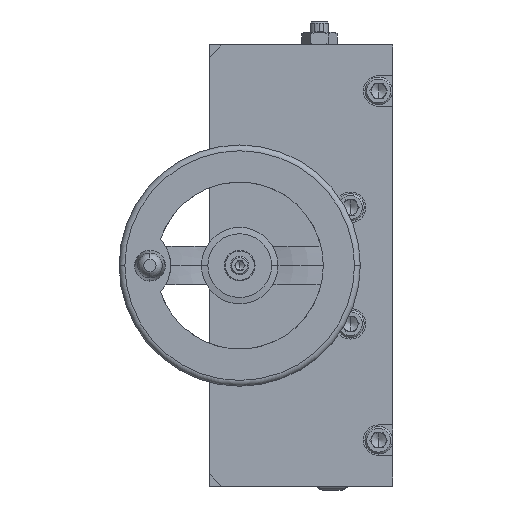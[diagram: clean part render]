
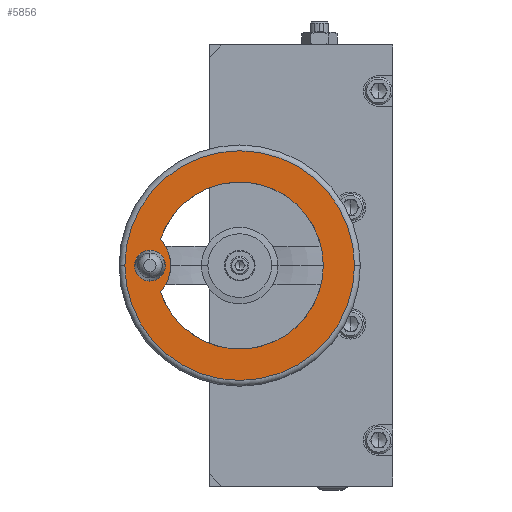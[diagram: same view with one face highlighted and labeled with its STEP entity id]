
A CAD part, left-side view. The second image highlights one B-rep face of the part: STEP entity #5856.
In plain terms, the highlighted planar face has unit normal (-1, 0, 0) as drawn and (0, 1, 0) by its records, which use the part's own axes.
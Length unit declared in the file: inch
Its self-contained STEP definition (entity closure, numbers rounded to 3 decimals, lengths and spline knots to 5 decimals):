
#371 = FACE_BOUND ( 'NONE', #22120, .T. ) ;
#373 = DIRECTION ( 'NONE',  ( 0., 1., 0. ) ) ;
#376 = CARTESIAN_POINT ( 'NONE',  ( 1.70472, 1.5748, 0. ) ) ;
#377 = FACE_BOUND ( 'NONE', #22118, .T. ) ;
#379 = FACE_OUTER_BOUND ( 'NONE', #22115, .T. ) ;
#380 = PLANE ( 'NONE',  #2688 ) ;
#381 = DIRECTION ( 'NONE',  ( 0., 0., 1. ) ) ;
#2688 = AXIS2_PLACEMENT_3D ( 'NONE', #376, #373, #381 ) ;
#5856 = ADVANCED_FACE ( 'NONE', ( #371, #377, #379 ), #380, .T. ) ;
#7865 = CIRCLE ( 'NONE', #7873, 2.34252 ) ;
#7870 = CIRCLE ( 'NONE', #7880, 0.31496 ) ;
#7873 = AXIS2_PLACEMENT_3D ( 'NONE', #10909, #10910, #10911 ) ;
#7876 = CIRCLE ( 'NONE', #7886, 1.70472 ) ;
#7880 = AXIS2_PLACEMENT_3D ( 'NONE', #10912, #10913, #10914 ) ;
#7886 = AXIS2_PLACEMENT_3D ( 'NONE', #10917, #10918, #10919 ) ;
#7910 = CIRCLE ( 'NONE', #7928, 0.7874 ) ;
#7928 = AXIS2_PLACEMENT_3D ( 'NONE', #11005, #11006, #11007 ) ;
#7941 = CIRCLE ( 'NONE', #7946, 0.7874 ) ;
#7946 = AXIS2_PLACEMENT_3D ( 'NONE', #11021, #11022, #11023 ) ;
#8053 = CIRCLE ( 'NONE', #8059, 1.70472 ) ;
#8056 = CIRCLE ( 'NONE', #8081, 2.34252 ) ;
#8059 = AXIS2_PLACEMENT_3D ( 'NONE', #11169, #11170, #11171 ) ;
#8081 = AXIS2_PLACEMENT_3D ( 'NONE', #11179, #11180, #11181 ) ;
#8155 = EDGE_CURVE ( 'NONE', #21119, #20926, #7865, .T. ) ;
#8159 = EDGE_CURVE ( 'NONE', #21189, #21186, #7870, .T. ) ;
#8163 = EDGE_CURVE ( 'NONE', #21067, #20931, #7876, .T. ) ;
#8204 = EDGE_CURVE ( 'NONE', #21068, #20928, #7910, .T. ) ;
#8214 = CIRCLE ( 'NONE', #8220, 0.31496 ) ;
#8220 = AXIS2_PLACEMENT_3D ( 'NONE', #11300, #11301, #11302 ) ;
#8222 = EDGE_CURVE ( 'NONE', #21067, #21068, #7941, .T. ) ;
#8319 = EDGE_CURVE ( 'NONE', #20931, #20928, #8053, .T. ) ;
#8333 = EDGE_CURVE ( 'NONE', #20926, #21119, #8056, .T. ) ;
#8434 = EDGE_CURVE ( 'NONE', #21186, #21189, #8214, .T. ) ;
#10909 = CARTESIAN_POINT ( 'NONE',  ( 0., 1.5748, 0. ) ) ;
#10910 = DIRECTION ( 'NONE',  ( 0., 1., 0. ) ) ;
#10911 = DIRECTION ( 'NONE',  ( 0., 0., 1. ) ) ;
#10912 = CARTESIAN_POINT ( 'NONE',  ( 0., 1.5748, -1.83071 ) ) ;
#10913 = DIRECTION ( 'NONE',  ( 0., 1., 0. ) ) ;
#10914 = DIRECTION ( 'NONE',  ( 0., 0., 1. ) ) ;
#10917 = CARTESIAN_POINT ( 'NONE',  ( 0., 1.5748, 0. ) ) ;
#10918 = DIRECTION ( 'NONE',  ( 0., 1., 0. ) ) ;
#10919 = DIRECTION ( 'NONE',  ( 0., 0., 1. ) ) ;
#11005 = CARTESIAN_POINT ( 'NONE',  ( 0., 1.5748, -2.19685 ) ) ;
#11006 = DIRECTION ( 'NONE',  ( 0., 1., 0. ) ) ;
#11007 = DIRECTION ( 'NONE',  ( 1., 0., 0. ) ) ;
#11021 = CARTESIAN_POINT ( 'NONE',  ( 0., 1.5748, -2.19685 ) ) ;
#11022 = DIRECTION ( 'NONE',  ( 0., 1., 0. ) ) ;
#11023 = DIRECTION ( 'NONE',  ( 1., 0., 0. ) ) ;
#11169 = CARTESIAN_POINT ( 'NONE',  ( 0., 1.5748, 0. ) ) ;
#11170 = DIRECTION ( 'NONE',  ( 0., 1., 0. ) ) ;
#11171 = DIRECTION ( 'NONE',  ( 0., 0., 1. ) ) ;
#11179 = CARTESIAN_POINT ( 'NONE',  ( 0., 1.5748, 0. ) ) ;
#11180 = DIRECTION ( 'NONE',  ( 0., 1., 0. ) ) ;
#11181 = DIRECTION ( 'NONE',  ( 0., 0., 1. ) ) ;
#11300 = CARTESIAN_POINT ( 'NONE',  ( 0., 1.5748, -1.83071 ) ) ;
#11301 = DIRECTION ( 'NONE',  ( 0., 1., 0. ) ) ;
#11302 = DIRECTION ( 'NONE',  ( 0., 0., 1. ) ) ;
#12215 = CARTESIAN_POINT ( 'NONE',  ( 0., 1.5748, 2.34252 ) ) ;
#12217 = CARTESIAN_POINT ( 'NONE',  ( 0.53459, 1.5748, -1.61873 ) ) ;
#12220 = CARTESIAN_POINT ( 'NONE',  ( 0., 1.5748, 1.70472 ) ) ;
#12356 = CARTESIAN_POINT ( 'NONE',  ( -0.53459, 1.5748, -1.61873 ) ) ;
#12357 = CARTESIAN_POINT ( 'NONE',  ( 0., 1.5748, -1.40945 ) ) ;
#12408 = CARTESIAN_POINT ( 'NONE',  ( 0., 1.5748, -2.34252 ) ) ;
#12475 = CARTESIAN_POINT ( 'NONE',  ( -0.31496, 1.5748, -1.83071 ) ) ;
#12478 = CARTESIAN_POINT ( 'NONE',  ( 0.31496, 1.5748, -1.83071 ) ) ;
#20501 = ORIENTED_EDGE ( 'NONE', *, *, #8434, .F. ) ;
#20502 = ORIENTED_EDGE ( 'NONE', *, *, #8159, .F. ) ;
#20503 = ORIENTED_EDGE ( 'NONE', *, *, #8222, .T. ) ;
#20504 = ORIENTED_EDGE ( 'NONE', *, *, #8204, .T. ) ;
#20505 = ORIENTED_EDGE ( 'NONE', *, *, #8319, .F. ) ;
#20506 = ORIENTED_EDGE ( 'NONE', *, *, #8163, .F. ) ;
#20507 = ORIENTED_EDGE ( 'NONE', *, *, #8333, .T. ) ;
#20508 = ORIENTED_EDGE ( 'NONE', *, *, #8155, .T. ) ;
#20926 = VERTEX_POINT ( 'NONE', #12215 ) ;
#20928 = VERTEX_POINT ( 'NONE', #12217 ) ;
#20931 = VERTEX_POINT ( 'NONE', #12220 ) ;
#21067 = VERTEX_POINT ( 'NONE', #12356 ) ;
#21068 = VERTEX_POINT ( 'NONE', #12357 ) ;
#21119 = VERTEX_POINT ( 'NONE', #12408 ) ;
#21186 = VERTEX_POINT ( 'NONE', #12475 ) ;
#21189 = VERTEX_POINT ( 'NONE', #12478 ) ;
#22115 = EDGE_LOOP ( 'NONE', ( #20507, #20508 ) ) ;
#22118 = EDGE_LOOP ( 'NONE', ( #20503, #20504, #20505, #20506 ) ) ;
#22120 = EDGE_LOOP ( 'NONE', ( #20501, #20502 ) ) ;
